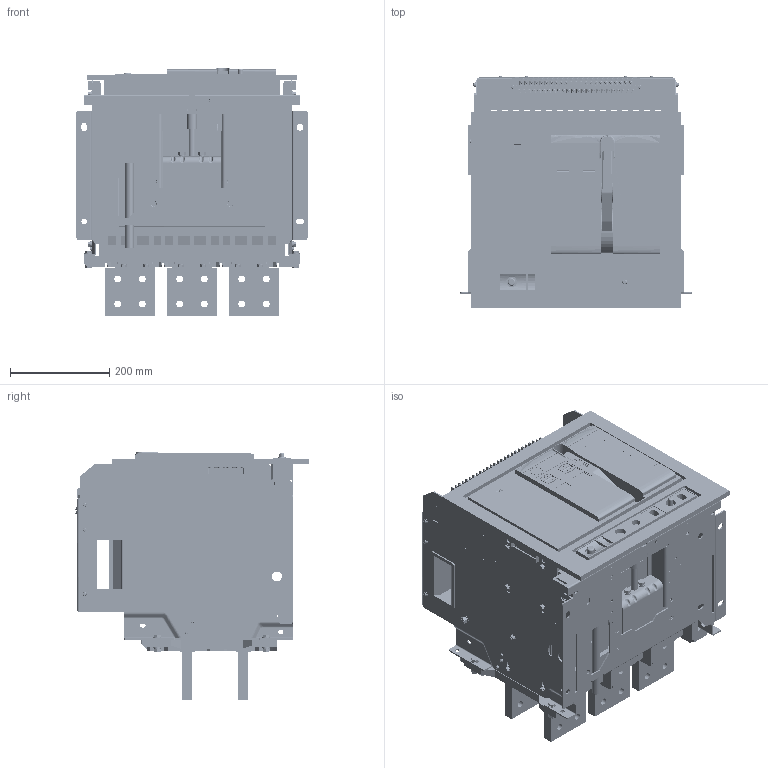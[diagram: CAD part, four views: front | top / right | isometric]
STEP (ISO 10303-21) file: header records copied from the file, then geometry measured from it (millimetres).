
FILE_DESCRIPTION (( 'STEP AP214' ), '1' );
FILE_NAME ('TGW1N-2500 D 3P.STEP', '2026-06-01T10:36:31', ( '' ), ( '' ), 'SwSTEP 2.0', 'SolidWorks 2024', '' );
FILE_SCHEMA (( 'AUTOMOTIVE_DESIGN' ));
Length unit declared in the file: millimetre
Products named in the file (53): 3200ZHAOKE_ASM_ASM_1.stp.STEP; MANIFOLD_SOLID_BREP_1358_1_1_1.stp.STEP; MANIFOLD_SOLID_BREP_1353_1_1_1.stp.STEP; MANIFOLD_SOLID_BREP_1361_1_1_1.stp.STEP; 8TZD_235_1114_1_1.stp.STEP; MANIFOLD_SOLID_BREP_1364_1_1_1.stp.STEP; TGW1N-2500 D 3P; BOJ3B645A41J65N_ASM_1_ASM_1_ASM_1.stp.STEP; MANIFOLD_SOLID_BREP_1376_1_1_1.stp.STEP; MANIFOLD_SOLID_BREP_1359_1_1_1.stp.STEP; 8TZD_156_6064.stp; MANIFOLD_SOLID_BREP_1372_1_1_1.stp.STEP; 3200A3P-CTSP_ASM_ASM_1_ASM_1.stp.STEP; 8TZD_253_1325_1_1.stp.STEP; MANIFOLD_SOLID_BREP_1368_1_1_1.stp.STEP; 8TZD_087_6008.stp; MANIFOLD_SOLID_BREP_1374_1_1_1.stp.STEP; 8TZD_253_1322_1_1.stp.STEP; MANIFOLD_SOLID_BREP_1362_1_1_1.stp.STEP; 3200A3P-CTSP_ASM_1_ASM_1_ASM_1.stp.STEP; MANIFOLD_SOLID_BREP_1349_1_1_1.stp.STEP; MANIFOLD_SOLID_BREP_1371_1_1_1.stp.STEP; MANIFOLD_SOLID_BREP_1375_1_1_1.stp.STEP; TGW1N-2500 D 3P.stp.STEP; 111111111_2_1.stp.STEP; 8TZD_253_1324_1_1.stp.STEP; MANIFOLD_SOLID_BREP_1373_1_1_1.stp.STEP; MANIFOLD_SOLID_BREP_1360_1_1_1.stp.STEP; MANIFOLD_SOLID_BREP_1365_1_1_1.stp.STEP; 5TZD_005_6016_ASM_1_ASM_1.stp.STEP; 8TZD_282_1271_AF1_1_1.stp.STEP; MANIFOLD_SOLID_BREP_1351_1_1_1.stp.STEP; MANIFOLD_SOLID_BREP_1352_1_1_1.stp.STEP; 8TZD_005_6110_1_1.stp.STEP; GB_T9074_4-M6X80_4_1.stp.STEP; MANIFOLD_SOLID_BREP_1370_1_1_1.stp.STEP; MANIFOLD_SOLID_BREP_1350_1_1_1.stp.STEP; TENGEN_Рамка_3200-6300_Drawer.stp; MANIFOLD_SOLID_BREP_1367_1_1_1.stp.STEP; MANIFOLD_SOLID_BREP_1369_1_1_1.stp.STEP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
Assembly tree (55 placements, depth 6):
  TGW1N-2500 D 3P
    TGW1N-2500 D 3P.stp.STEP
      3200A3P-CTSP_ASM_ASM_1_ASM_1.stp.STEP
        3200A3P-CTSP_ASM_1_ASM_1_ASM_1.stp.STEP
          BOJ3B645A41J65N_ASM_1_ASM_1_ASM_1.stp.STEP
            BREP_WITH_VOIDS_30_1_1_1.stp.STEP
            MANIFOLD_SOLID_BREP_1349_1_1_1.stp.STEP
            MANIFOLD_SOLID_BREP_1350_1_1_1.stp.STEP
            MANIFOLD_SOLID_BREP_1351_1_1_1.stp.STEP
            MANIFOLD_SOLID_BREP_1352_1_1_1.stp.STEP
            MANIFOLD_SOLID_BREP_1353_1_1_1.stp.STEP
            MANIFOLD_SOLID_BREP_1354_1_1_1.stp.STEP
            MANIFOLD_SOLID_BREP_1355_1_1_1.stp.STEP
            MANIFOLD_SOLID_BREP_1356_1_1_1.stp.STEP
            MANIFOLD_SOLID_BREP_1357_1_1_1.stp.STEP
            MANIFOLD_SOLID_BREP_1358_1_1_1.stp.STEP
            MANIFOLD_SOLID_BREP_1359_1_1_1.stp.STEP
            MANIFOLD_SOLID_BREP_1360_1_1_1.stp.STEP
            MANIFOLD_SOLID_BREP_1361_1_1_1.stp.STEP
            MANIFOLD_SOLID_BREP_1362_1_1_1.stp.STEP
            MANIFOLD_SOLID_BREP_1363_1_1_1.stp.STEP
            MANIFOLD_SOLID_BREP_1364_1_1_1.stp.STEP
            MANIFOLD_SOLID_BREP_1365_1_1_1.stp.STEP
            MANIFOLD_SOLID_BREP_1367_1_1_1.stp.STEP
            MANIFOLD_SOLID_BREP_1368_1_1_1.stp.STEP
            MANIFOLD_SOLID_BREP_1369_1_1_1.stp.STEP
            MANIFOLD_SOLID_BREP_1370_1_1_1.stp.STEP
            MANIFOLD_SOLID_BREP_1371_1_1_1.stp.STEP
            MANIFOLD_SOLID_BREP_1372_1_1_1.stp.STEP
            MANIFOLD_SOLID_BREP_1373_1_1_1.stp.STEP
            MANIFOLD_SOLID_BREP_1374_1_1_1.stp.STEP
            MANIFOLD_SOLID_BREP_1375_1_1_1.stp.STEP
            MANIFOLD_SOLID_BREP_1376_1_1_1.stp.STEP
      3200ZHAOKE_ASM_ASM_1.stp.STEP
        3200ZHAOKE_ASM_2_ASM_1.stp.STEP
          5TZD_005_6016_ASM_1_ASM_1.stp.STEP
            8TZD_005_6110_1_1.stp.STEP
            8TZD_253_1322_1_1.stp.STEP
            8TZD_282_1272_AF0_1_1.stp.STEP
            8TZD_235_1114_1_1.stp.STEP
            8TZD_321_1011_1_1.stp.STEP
            8TZD_282_1271_AF0_1_1.stp.STEP
            8TZD_282_1271_AF1_1_1.stp.STEP
            8TZD_253_1324_1_1.stp.STEP
            8TZD_253_1325_1_1.stp.STEP
            8TZD_860_6288_1_1.stp.STEP
          111111111_2_1.stp.STEP
          2000SB_1_1.stp.STEP
      GB_T9074_4-M6X80_4_1.stp.STEP  x4
    TENGEN_Рамка_3200-6300_Drawer
      TENGEN_Рамка_3200-6300_Drawer.stp
        8TZD_087_6008.stp
        8TZD_156_6064.stp
Bounding box: 466 x 469.5 x 501.2 mm (x, y, z)
Volume: 32085512.7 mm3; surface area: 4135986 mm2
Topology: 42 solids, 52 shells, 9884 faces, 26672 edges, 17062 vertices
Faces by surface type: plane 7219, cylinder 2038, bspline 285, torus 215, sphere 78, cone 49
Entity records: 380814 total; most frequent: CARTESIAN_POINT 135758, ORIENTED_EDGE 52288, DIRECTION 47996, EDGE_CURVE 26146, LINE 18630, VECTOR 18630, VERTEX_POINT 16894, AXIS2_PLACEMENT_3D 14683
